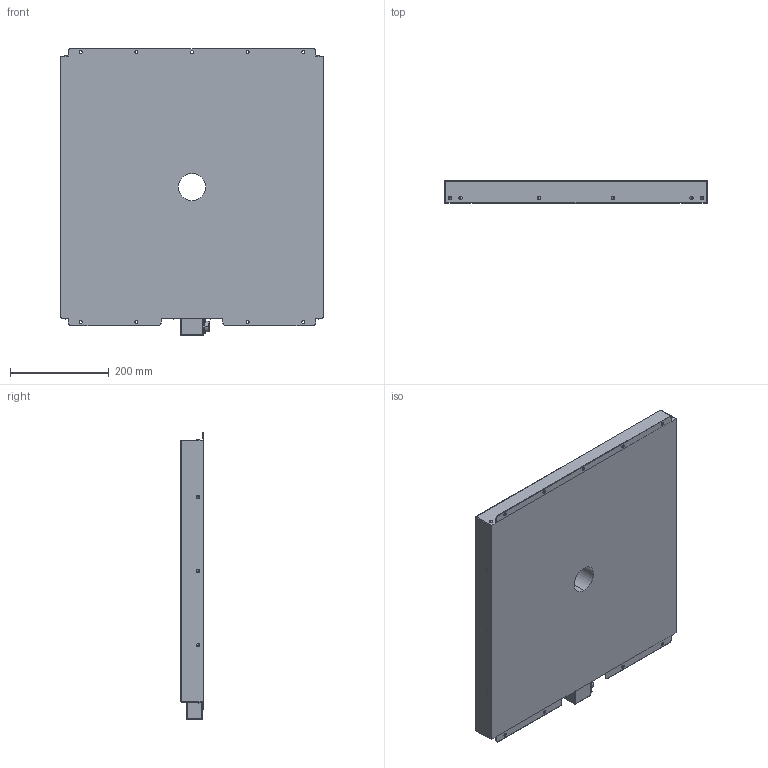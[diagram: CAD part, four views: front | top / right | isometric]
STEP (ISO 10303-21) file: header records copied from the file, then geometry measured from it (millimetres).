
FILE_DESCRIPTION (( 'STEP AP203' ), '1' );
FILE_NAME ('IFPA-500_500仩HV-55D(奜娤恾).STEP', '2016-06-23T05:36:34', ( 'imac139_182' ), ( 'Microsoft' ), 'SwSTEP 2.0', 'SolidWorks 2014', '' );
FILE_SCHEMA (( 'CONFIG_CONTROL_DESIGN' ));
Length unit declared in the file: millimetre
Products named in the file (1): IFPA-500_500仩HV-55D(奜娤恾)
Bounding box: 533.8 x 45 x 580 mm (x, y, z)
Volume: 12353861.5 mm3; surface area: 694416.8 mm2
Topology: 1 solids, 1 shells, 208 faces, 532 edges, 340 vertices
Faces by surface type: cylinder 102, sphere 60, plane 36, torus 8, cone 2
Entity records: 6387 total; most frequent: DIRECTION 1244, CARTESIAN_POINT 1049, ORIENTED_EDGE 1016, AXIS2_PLACEMENT_3D 527, EDGE_CURVE 508, VERTEX_POINT 332, CIRCLE 318, EDGE_LOOP 258
